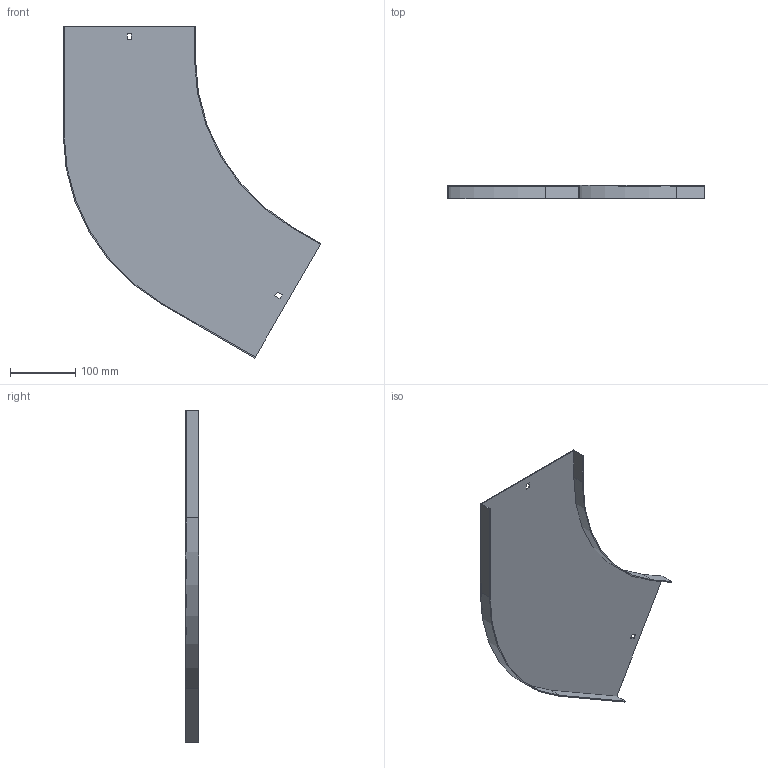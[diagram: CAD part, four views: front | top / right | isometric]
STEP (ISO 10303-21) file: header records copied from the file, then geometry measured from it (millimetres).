
FILE_DESCRIPTION (( 'STEP AP214' ), '1' );
FILE_NAME ('B2_13N3R200.step', '2025-02-21T10:52:38', ( '' ), ( '' ), 'SwSTEP 2.0', 'SolidWorks 2023', '' );
FILE_SCHEMA (( 'AUTOMOTIVE_DESIGN' ));
Length unit declared in the file: millimetre
Products named in the file (1): B2_13N3R200
Bounding box: 395.55 x 20 x 509.31 mm (x, y, z)
Volume: 200166.3 mm3; surface area: 269290.3 mm2
Topology: 1 solids, 1 shells, 26 faces, 72 edges, 48 vertices
Faces by surface type: plane 22, cylinder 4
Entity records: 855 total; most frequent: CARTESIAN_POINT 147, ORIENTED_EDGE 144, DIRECTION 134, EDGE_CURVE 72, LINE 64, VECTOR 64, VERTEX_POINT 48, AXIS2_PLACEMENT_3D 35
